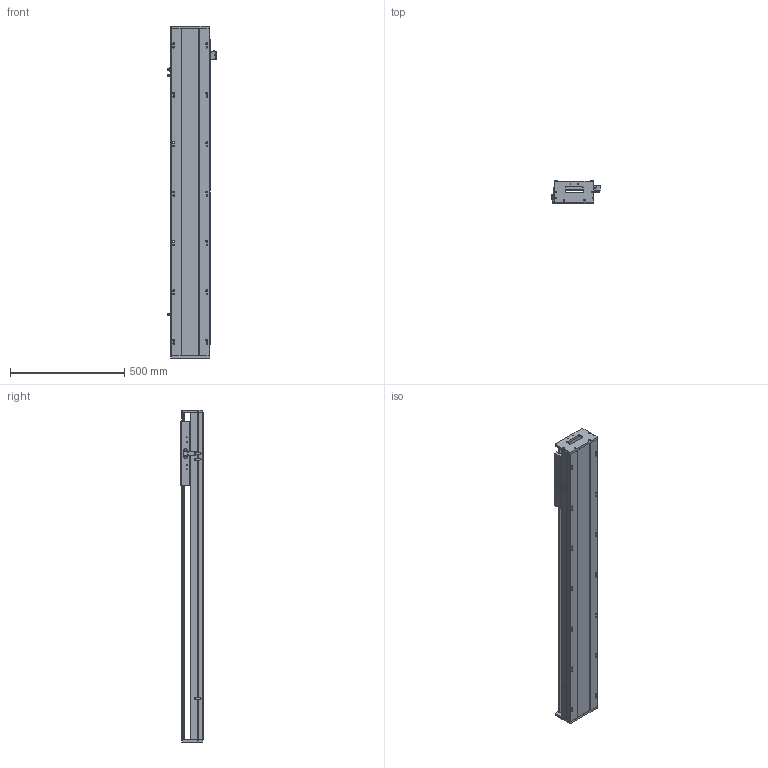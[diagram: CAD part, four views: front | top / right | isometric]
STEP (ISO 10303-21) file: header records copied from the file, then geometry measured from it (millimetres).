
FILE_DESCRIPTION (( 'STEP AP203' ), '1' );
FILE_NAME ('SKR17S-C2-S1072（简）.STEP', '2022-09-29T07:55:00', ( '' ), ( '' ), 'SwSTEP 2.0', 'SolidWorks 2018', '' );
FILE_SCHEMA (( 'CONFIG_CONTROL_DESIGN' ));
Length unit declared in the file: millimetre
Products named in the file (8): EE-SX672; SKR17滑台-280L（简）; SKR17S-C2-S1072（简）; 棠掑假蚾輸; SKR17底座-C2-S1072（简); 感应片（SKR12S-14S-17S）; SIKO棠掑; SKR17耜啣
Assembly tree (10 placements, depth 2):
  SKR17S-C2-S1072（简）
    SKR17底座-C2-S1072（简)
    SIKO棠掑
    EE-SX672  x3
    SKR17耜啣  x2
    棠掑假蚾輸
    SKR17滑台-280L（简）
    感应片（SKR12S-14S-17S）
Bounding box: 212.7 x 97 x 1452 mm (x, y, z)
Volume: 11726854.7 mm3; surface area: 1470190.3 mm2
Topology: 11 solids, 11 shells, 1144 faces, 3172 edges, 2036 vertices
Faces by surface type: cylinder 541, plane 481, cone 122
Entity records: 34339 total; most frequent: CARTESIAN_POINT 8655, ORIENTED_EDGE 5348, DIRECTION 5013, EDGE_CURVE 2674, AXIS2_PLACEMENT_3D 1778, VERTEX_POINT 1740, LINE 1457, VECTOR 1457
